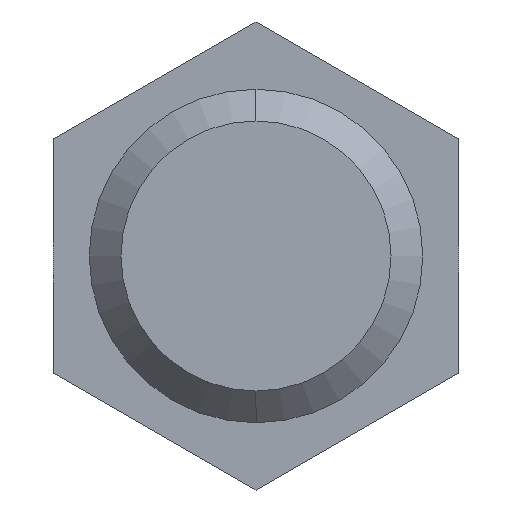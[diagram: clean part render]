
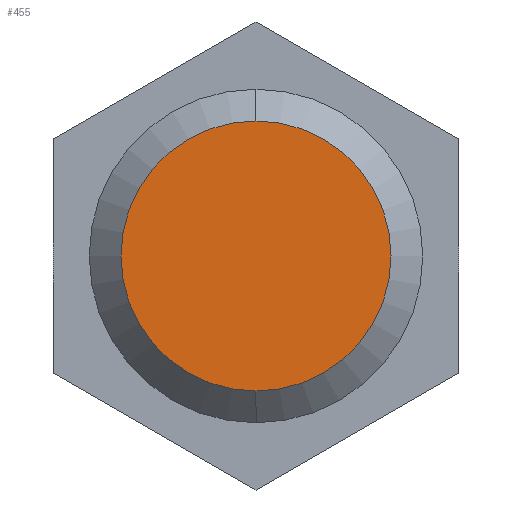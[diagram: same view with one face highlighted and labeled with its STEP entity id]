
A CAD part, left-side view. The second image highlights one B-rep face of the part: STEP entity #455.
In plain terms, the highlighted planar face has unit normal (-1, 0, 0).
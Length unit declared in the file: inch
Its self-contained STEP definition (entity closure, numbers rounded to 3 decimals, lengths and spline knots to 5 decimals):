
#3 = CARTESIAN_POINT ( 'NONE',  ( -2.401, 0., 0. ) ) ;
#42 = DIRECTION ( 'NONE',  ( 1., 0., 0. ) ) ;
#44 = CARTESIAN_POINT ( 'NONE',  ( -2.401, 0., 0. ) ) ;
#45 = DIRECTION ( 'NONE',  ( 0., 0., -1. ) ) ;
#47 = CARTESIAN_POINT ( 'NONE',  ( -2.401, 0., -0.3542 ) ) ;
#61 = DIRECTION ( 'NONE',  ( 1., 0., 0. ) ) ;
#66 = DIRECTION ( 'NONE',  ( 0., 0., -1. ) ) ;
#92 = EDGE_CURVE ( 'NONE', #357, #377, #281, .T. ) ;
#97 = AXIS2_PLACEMENT_3D ( 'NONE', #44, #42, #45 ) ;
#104 = AXIS2_PLACEMENT_3D ( 'NONE', #3, #61, #66 ) ;
#106 = EDGE_CURVE ( 'NONE', #377, #357, #318, .T. ) ;
#157 = AXIS2_PLACEMENT_3D ( 'NONE', #511, #512, #513 ) ;
#171 = CARTESIAN_POINT ( 'NONE',  ( -2.401, 0., 0.3542 ) ) ;
#245 = ORIENTED_EDGE ( 'NONE', *, *, #92, .F. ) ;
#276 = FACE_OUTER_BOUND ( 'NONE', #282, .T. ) ;
#281 = CIRCLE ( 'NONE', #97, 0.3542 ) ;
#282 = EDGE_LOOP ( 'NONE', ( #245, #295 ) ) ;
#295 = ORIENTED_EDGE ( 'NONE', *, *, #106, .F. ) ;
#318 = CIRCLE ( 'NONE', #104, 0.3542 ) ;
#357 = VERTEX_POINT ( 'NONE', #47 ) ;
#377 = VERTEX_POINT ( 'NONE', #171 ) ;
#421 = PLANE ( 'NONE',  #157 ) ;
#455 = ADVANCED_FACE ( 'NONE', ( #276 ), #421, .T. ) ;
#511 = CARTESIAN_POINT ( 'NONE',  ( -2.401, 0.3542, 0. ) ) ;
#512 = DIRECTION ( 'NONE',  ( -1., 0., 0. ) ) ;
#513 = DIRECTION ( 'NONE',  ( 0., 0., 1. ) ) ;
